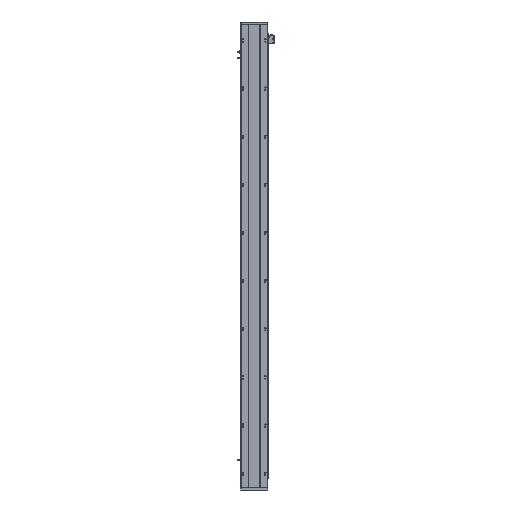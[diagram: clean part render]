
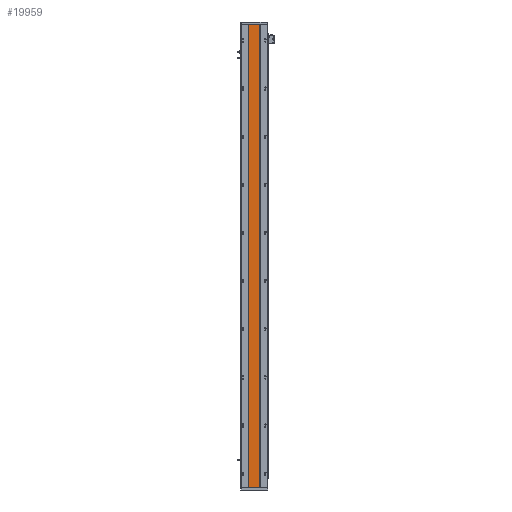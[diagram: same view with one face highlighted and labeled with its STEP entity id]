
A CAD part, front view. The second image highlights one B-rep face of the part: STEP entity #19959.
In plain terms, the highlighted planar face has unit normal (0, -1, 0).
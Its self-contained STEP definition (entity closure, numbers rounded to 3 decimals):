
#130 = CARTESIAN_POINT ( 'NONE',  ( 0., 115.96, 2080. ) ) ;
#363 = DIRECTION ( 'NONE',  ( 0., 1., 0. ) ) ;
#935 = EDGE_CURVE ( 'NONE', #11696, #3267, #3928, .T. ) ;
#2173 = EDGE_CURVE ( 'NONE', #11696, #7781, #11661, .T. ) ;
#2474 = ORIENTED_EDGE ( 'NONE', *, *, #935, .F. ) ;
#2501 = AXIS2_PLACEMENT_3D ( 'NONE', #130, #363, #11960 ) ;
#3267 = VERTEX_POINT ( 'NONE', #4484 ) ;
#3473 = ORIENTED_EDGE ( 'NONE', *, *, #8268, .F. ) ;
#3928 = LINE ( 'NONE', #19908, #29468 ) ;
#4484 = CARTESIAN_POINT ( 'NONE',  ( 183.063, 115.96, 2080. ) ) ;
#6381 = DIRECTION ( 'NONE',  ( 0., 0., -1. ) ) ;
#7781 = VERTEX_POINT ( 'NONE', #11204 ) ;
#8151 = DIRECTION ( 'NONE',  ( 1., 0., 0. ) ) ;
#8268 = EDGE_CURVE ( 'NONE', #3267, #27423, #15601, .T. ) ;
#8572 = CARTESIAN_POINT ( 'NONE',  ( 133.07, 115.96, 2080. ) ) ;
#10184 = CARTESIAN_POINT ( 'NONE',  ( 133.07, 115.96, 2080. ) ) ;
#10196 = VECTOR ( 'NONE', #6381, 1000. ) ;
#11152 = CARTESIAN_POINT ( 'NONE',  ( 0., 115.96, 0. ) ) ;
#11204 = CARTESIAN_POINT ( 'NONE',  ( 133.07, 115.96, 0. ) ) ;
#11661 = LINE ( 'NONE', #8572, #10196 ) ;
#11696 = VERTEX_POINT ( 'NONE', #10184 ) ;
#11960 = DIRECTION ( 'NONE',  ( -1., 0., 0. ) ) ;
#12523 = CARTESIAN_POINT ( 'NONE',  ( 183.063, 115.96, 2080. ) ) ;
#13766 = FACE_OUTER_BOUND ( 'NONE', #27424, .T. ) ;
#15601 = LINE ( 'NONE', #12523, #16719 ) ;
#15608 = DIRECTION ( 'NONE',  ( 1., 0., 0. ) ) ;
#16719 = VECTOR ( 'NONE', #29112, 1000. ) ;
#17345 = ORIENTED_EDGE ( 'NONE', *, *, #2173, .T. ) ;
#19715 = VECTOR ( 'NONE', #15608, 1000. ) ;
#19716 = EDGE_CURVE ( 'NONE', #7781, #27423, #26372, .T. ) ;
#19908 = CARTESIAN_POINT ( 'NONE',  ( 0., 115.96, 2080. ) ) ;
#19959 = ADVANCED_FACE ( 'NONE', ( #13766 ), #21292, .F. ) ;
#20849 = ORIENTED_EDGE ( 'NONE', *, *, #19716, .T. ) ;
#21292 = PLANE ( 'NONE',  #2501 ) ;
#23711 = CARTESIAN_POINT ( 'NONE',  ( 183.063, 115.96, 0. ) ) ;
#26372 = LINE ( 'NONE', #11152, #19715 ) ;
#27423 = VERTEX_POINT ( 'NONE', #23711 ) ;
#27424 = EDGE_LOOP ( 'NONE', ( #20849, #3473, #2474, #17345 ) ) ;
#29112 = DIRECTION ( 'NONE',  ( 0., 0., -1. ) ) ;
#29468 = VECTOR ( 'NONE', #8151, 1000. ) ;
